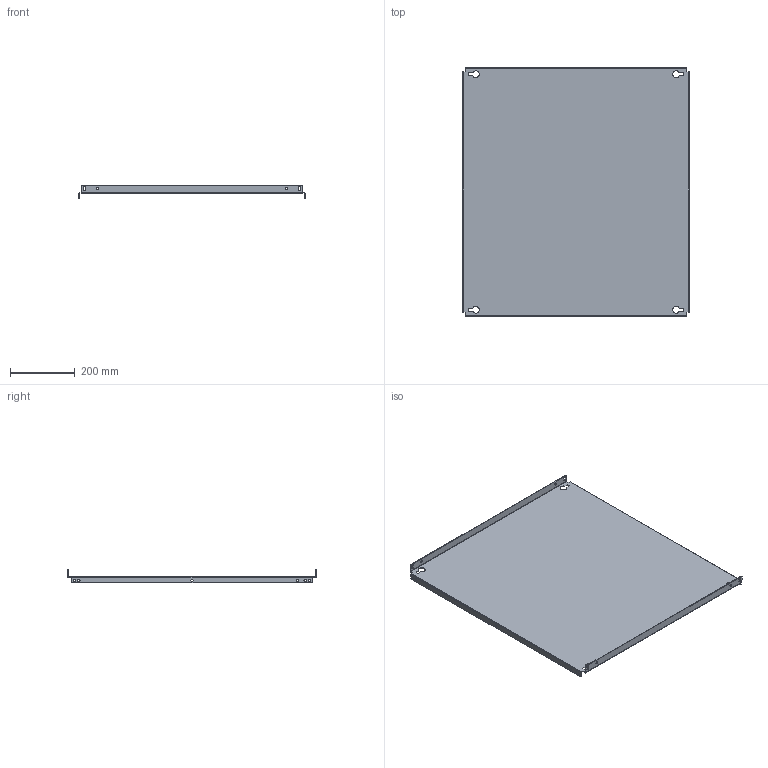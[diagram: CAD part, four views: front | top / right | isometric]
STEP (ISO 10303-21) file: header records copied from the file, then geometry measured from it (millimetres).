
FILE_DESCRIPTION (( 'STEP AP203' ), '1' );
FILE_NAME ('R5PPS8008.STEP', '2021-12-20T07:01:14', ( '' ), ( '' ), 'SwSTEP 2.0', 'SolidWorks 2020', '' );
FILE_SCHEMA (( 'CONFIG_CONTROL_DESIGN' ));
Length unit declared in the file: millimetre
Products named in the file (1): R5PPS8008
Bounding box: 700 x 769 x 43 mm (x, y, z)
Volume: 1182707.8 mm3; surface area: 1190586.6 mm2
Topology: 1 solids, 1 shells, 140 faces, 382 edges, 244 vertices
Faces by surface type: cylinder 82, plane 58
Entity records: 4627 total; most frequent: DIRECTION 828, CARTESIAN_POINT 767, ORIENTED_EDGE 764, EDGE_CURVE 382, AXIS2_PLACEMENT_3D 305, VERTEX_POINT 244, VECTOR 218, LINE 218
